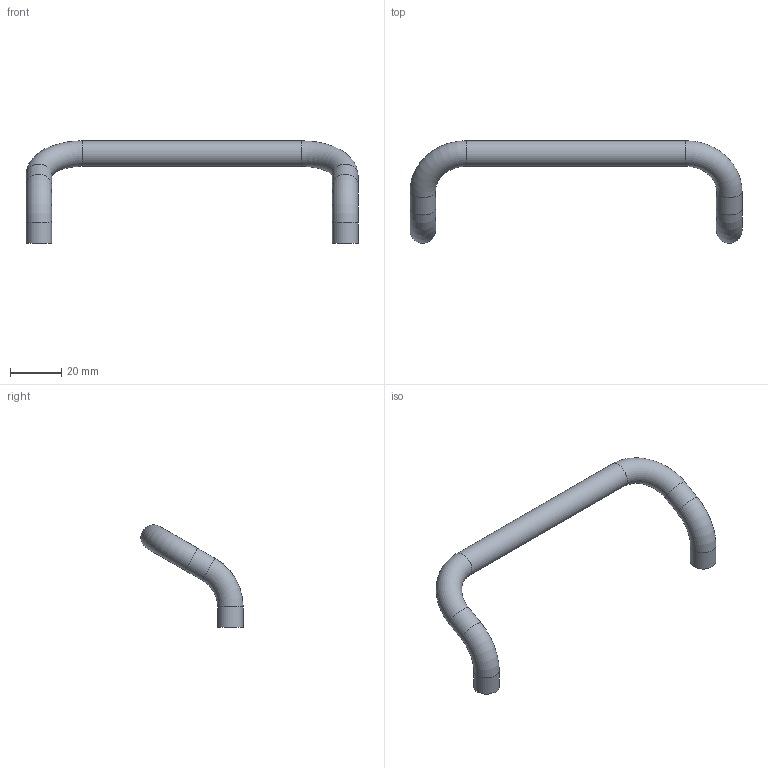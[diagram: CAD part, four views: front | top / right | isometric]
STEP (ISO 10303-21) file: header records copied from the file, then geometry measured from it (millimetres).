
FILE_DESCRIPTION((''),'2;1');
FILE_NAME('E:\catalogue and flyer\Profile catalogue 2015\Accessories ACC info\Accessories ACC step file 31Mar16\ACC-CH120.stp','2016-04-07T11:55:39',('h029'),(''),'Autodesk Inventor 11','Autodesk Inventor 11','');
FILE_SCHEMA(('AUTOMOTIVE_DESIGN { 1 0 10303 214 1 1 1 1 }'));
Length unit declared in the file: millimetre
Products named in the file (1): item_0041687_Handle_Al_120_cranked_black_0
Bounding box: 130 x 40.06 x 40.07 mm (x, y, z)
Volume: 15947.8 mm3; surface area: 6912.2 mm2
Topology: 1 solids, 1 shells, 15 faces, 37 edges, 24 vertices
Faces by surface type: cylinder 5, bspline 4, torus 4, plane 2
Full cylindrical faces by diameter (mm): 10 x5
Entity records: 379 total; most frequent: CARTESIAN_POINT 114, DIRECTION 54, ORIENTED_EDGE 30, EDGE_LOOP 28, AXIS2_PLACEMENT_3D 27, VERTEX_POINT 15, CIRCLE 15, EDGE_CURVE 15
